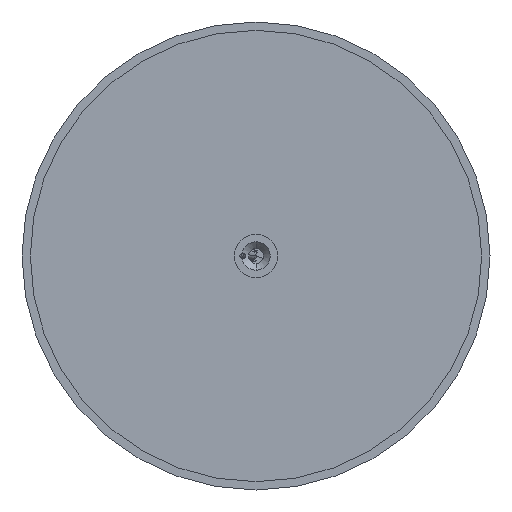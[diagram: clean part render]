
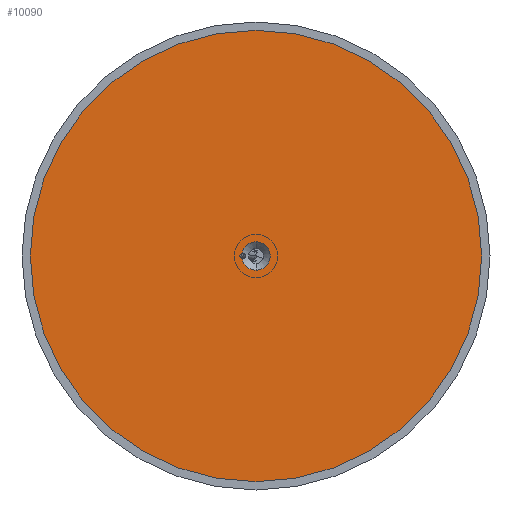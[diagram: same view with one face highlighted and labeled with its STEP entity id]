
A CAD part, front view. The second image highlights one B-rep face of the part: STEP entity #10090.
In plain terms, the highlighted planar face has unit normal (0, -1, 0).
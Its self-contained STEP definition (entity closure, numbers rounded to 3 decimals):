
#616 = DIRECTION ( 'NONE',  ( 0., 0., 1. ) ) ;
#963 = DIRECTION ( 'NONE',  ( 0., 1., 0. ) ) ;
#1668 = CARTESIAN_POINT ( 'NONE',  ( -26.068, -1124.685, -30.807 ) ) ;
#1769 = EDGE_CURVE ( 'NONE', #1838, #5044, #7829, .T. ) ;
#1838 = VERTEX_POINT ( 'NONE', #7266 ) ;
#1902 = AXIS2_PLACEMENT_3D ( 'NONE', #2215, #12040, #8472 ) ;
#2180 = DIRECTION ( 'NONE',  ( 0., 0., 1. ) ) ;
#2215 = CARTESIAN_POINT ( 'NONE',  ( -26.068, -1124.685, -30.807 ) ) ;
#2307 = ORIENTED_EDGE ( 'NONE', *, *, #1769, .T. ) ;
#2508 = EDGE_CURVE ( 'NONE', #8546, #2621, #15064, .T. ) ;
#2621 = VERTEX_POINT ( 'NONE', #4887 ) ;
#2873 = DIRECTION ( 'NONE',  ( 0., 0., 1. ) ) ;
#3057 = CARTESIAN_POINT ( 'NONE',  ( -34.068, -1124.685, -30.807 ) ) ;
#3094 = PLANE ( 'NONE',  #7234 ) ;
#3157 = AXIS2_PLACEMENT_3D ( 'NONE', #7064, #8137, #2180 ) ;
#3308 = AXIS2_PLACEMENT_3D ( 'NONE', #11185, #8510, #13742 ) ;
#4471 = AXIS2_PLACEMENT_3D ( 'NONE', #3057, #6789, #616 ) ;
#4749 = CIRCLE ( 'NONE', #14569, 8.5 ) ;
#4887 = CARTESIAN_POINT ( 'NONE',  ( -26.068, -1124.685, 104.193 ) ) ;
#5044 = VERTEX_POINT ( 'NONE', #15542 ) ;
#5140 = EDGE_CURVE ( 'NONE', #6603, #10836, #13495, .T. ) ;
#5518 = DIRECTION ( 'NONE',  ( 0., 0., 1. ) ) ;
#6023 = ORIENTED_EDGE ( 'NONE', *, *, #5140, .T. ) ;
#6603 = VERTEX_POINT ( 'NONE', #12658 ) ;
#6789 = DIRECTION ( 'NONE',  ( 0., 1., 0. ) ) ;
#7064 = CARTESIAN_POINT ( 'NONE',  ( -26.068, -1124.685, -30.807 ) ) ;
#7234 = AXIS2_PLACEMENT_3D ( 'NONE', #8689, #963, #13606 ) ;
#7266 = CARTESIAN_POINT ( 'NONE',  ( -34.413, -1124.685, -32.421 ) ) ;
#7729 = EDGE_CURVE ( 'NONE', #5044, #6603, #15429, .T. ) ;
#7761 = EDGE_LOOP ( 'NONE', ( #9552, #6023, #10788, #2307 ) ) ;
#7829 = CIRCLE ( 'NONE', #4471, 1.65 ) ;
#8137 = DIRECTION ( 'NONE',  ( 0., 1., 0. ) ) ;
#8472 = DIRECTION ( 'NONE',  ( 0., 0., 1. ) ) ;
#8510 = DIRECTION ( 'NONE',  ( 0., 1., 0. ) ) ;
#8546 = VERTEX_POINT ( 'NONE', #12134 ) ;
#8689 = CARTESIAN_POINT ( 'NONE',  ( -26.068, -1124.685, -30.807 ) ) ;
#9234 = ORIENTED_EDGE ( 'NONE', *, *, #9974, .F. ) ;
#9286 = FACE_BOUND ( 'NONE', #7761, .T. ) ;
#9325 = AXIS2_PLACEMENT_3D ( 'NONE', #11932, #14266, #5518 ) ;
#9552 = ORIENTED_EDGE ( 'NONE', *, *, #7729, .T. ) ;
#9974 = EDGE_CURVE ( 'NONE', #2621, #8546, #11132, .T. ) ;
#10090 = ADVANCED_FACE ( 'NONE', ( #9286, #14194 ), #3094, .F. ) ;
#10788 = ORIENTED_EDGE ( 'NONE', *, *, #11258, .T. ) ;
#10836 = VERTEX_POINT ( 'NONE', #13769 ) ;
#11132 = CIRCLE ( 'NONE', #9325, 135. ) ;
#11185 = CARTESIAN_POINT ( 'NONE',  ( -26.068, -1124.685, -30.807 ) ) ;
#11258 = EDGE_CURVE ( 'NONE', #10836, #1838, #4749, .T. ) ;
#11932 = CARTESIAN_POINT ( 'NONE',  ( -26.068, -1124.685, -30.807 ) ) ;
#12040 = DIRECTION ( 'NONE',  ( 0., 1., 0. ) ) ;
#12134 = CARTESIAN_POINT ( 'NONE',  ( -26.068, -1124.685, -165.807 ) ) ;
#12658 = CARTESIAN_POINT ( 'NONE',  ( -26.068, -1124.685, -22.307 ) ) ;
#12691 = EDGE_LOOP ( 'NONE', ( #13142, #9234 ) ) ;
#13142 = ORIENTED_EDGE ( 'NONE', *, *, #2508, .F. ) ;
#13495 = CIRCLE ( 'NONE', #3157, 8.5 ) ;
#13606 = DIRECTION ( 'NONE',  ( 0., 0., 1. ) ) ;
#13742 = DIRECTION ( 'NONE',  ( 0., 0., 1. ) ) ;
#13769 = CARTESIAN_POINT ( 'NONE',  ( -26.068, -1124.685, -39.307 ) ) ;
#13983 = DIRECTION ( 'NONE',  ( 0., 1., 0. ) ) ;
#14194 = FACE_OUTER_BOUND ( 'NONE', #12691, .T. ) ;
#14266 = DIRECTION ( 'NONE',  ( 0., 1., 0. ) ) ;
#14569 = AXIS2_PLACEMENT_3D ( 'NONE', #1668, #13983, #2873 ) ;
#15064 = CIRCLE ( 'NONE', #1902, 135. ) ;
#15429 = CIRCLE ( 'NONE', #3308, 8.5 ) ;
#15542 = CARTESIAN_POINT ( 'NONE',  ( -34.413, -1124.685, -29.194 ) ) ;
